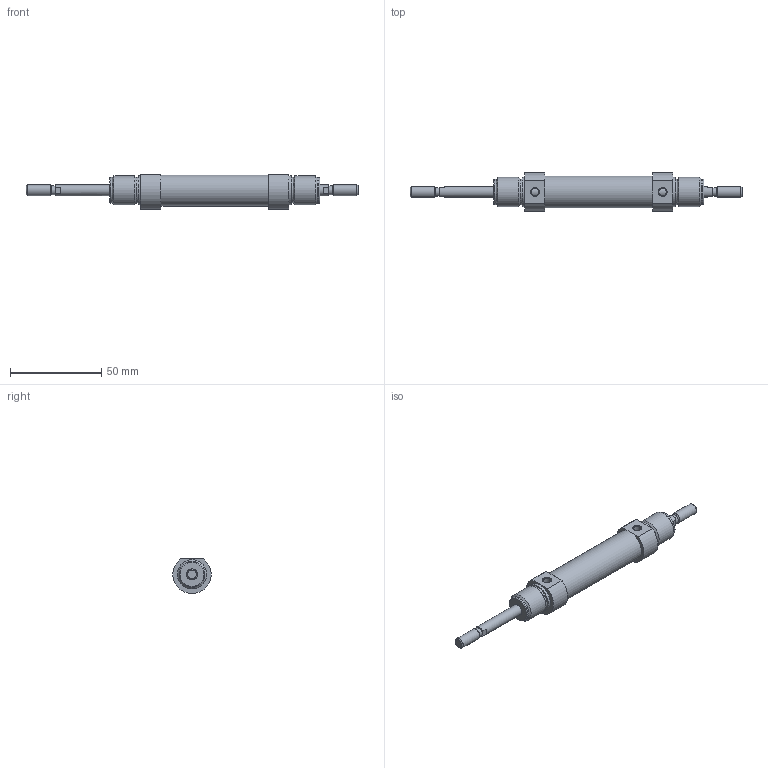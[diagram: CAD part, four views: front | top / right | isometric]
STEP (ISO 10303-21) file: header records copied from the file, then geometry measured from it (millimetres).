
FILE_DESCRIPTION( ( 'STEP AP203' ), '1' );
FILE_NAME( '//expscmdclustefs.cadenas.external/client_exchange/iodir/jobs/output/wkb68411622_no0/STEP/M101-016-0025--__0__2_03.stp', ' ', ( ' ' ), ( ' ' ), 'PSStep 15.0.47', 'PARTsolutions', ' ' );
FILE_SCHEMA( ( 'CONFIG_CONTROL_DESIGN' ) );
Length unit declared in the file: millimetre
Products named in the file (3): M101-016-0025-- [0]; HI_M101-016-0025---[0]-z; HI_M101-016-0025---[0]-k
Assembly tree (2 placements, depth 2):
  M101-016-0025-- [0]
    HI_M101-016-0025---[0]-z
    HI_M101-016-0025---[0]-k
Bounding box: 182 x 20.94 x 19.09 mm (x, y, z)
Volume: 25019.3 mm3; surface area: 14754.1 mm2
Topology: 2 solids, 2 shells, 67 faces, 135 edges, 82 vertices
Faces by surface type: plane 28, cylinder 23, cone 14, torus 2
Full cylindrical faces by diameter (mm): 4.134 x2, 4.773 x2, 6 x6, 14.16 x4, 16 x6, 17.3 x1
Entity records: 1730 total; most frequent: CARTESIAN_POINT 334, DIRECTION 292, ORIENTED_EDGE 196, AXIS2_PLACEMENT_3D 132, EDGE_LOOP 116, EDGE_CURVE 98, FACE_OUTER_BOUND 90, VERTEX_POINT 78
